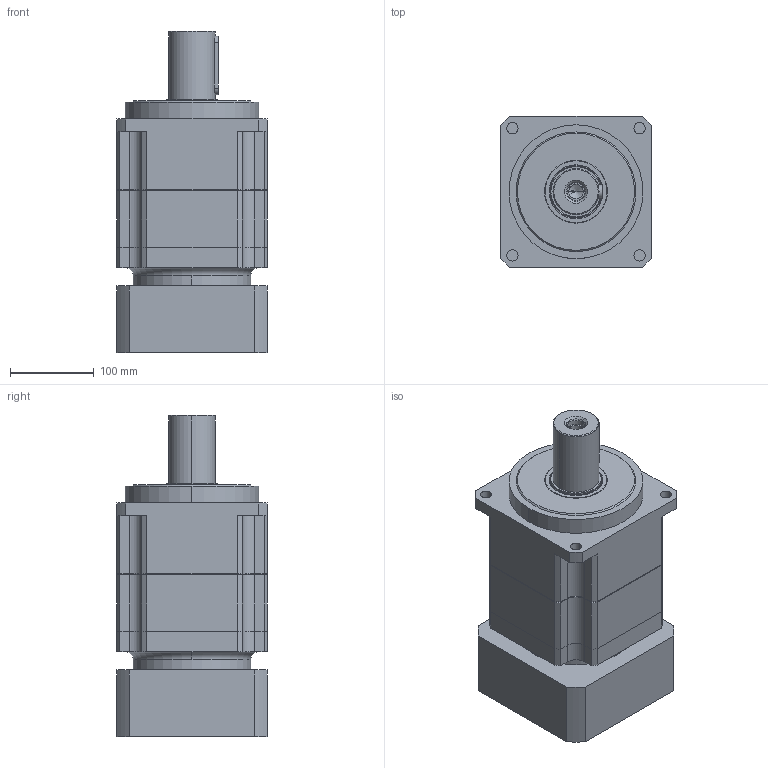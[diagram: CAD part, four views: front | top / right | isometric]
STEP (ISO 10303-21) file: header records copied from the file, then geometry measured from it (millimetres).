
FILE_DESCRIPTION (( 'STEP AP203' ), '1' );
FILE_NAME ('PAG180-L2-42-114.3-200.STEP', '2022-07-18T09:15:58', ( 'Windows User' ), ( 'P R C' ), 'SwSTEP 2.0', 'SolidWorks 2016', '' );
FILE_SCHEMA (( 'CONFIG_CONTROL_DESIGN' ));
Length unit declared in the file: millimetre
Products named in the file (8): 内六角圆柱头螺钉M10×35; PAG180-L2-42-114.3-200; PAG180齿圈转架; PAG180二级齿圈; PAG180薊粣ん-42; PAG180 一级连接板 180匡 114.3x10 200xM12 80L 目录_D4-114.3 D7-200 D8-M12 A2-180 L5-10 L6-83(45+38) R-117 标准; 邧埴瑩 16x10x70; TC60-75-9_TC-34.9-55-7
Assembly tree (7 placements, depth 2):
  PAG180-L2-42-114.3-200
    PAG180齿圈转架
    PAG180二级齿圈
    PAG180薊粣ん-42
    PAG180 一级连接板 180匡 114.3x10 200xM12 80L 目录_D4-114.3 D7-200 D8-M12 A2-180 L5-10 L6-83(45+38) R-117 标准
    邧埴瑩 16x10x70
    TC60-75-9_TC-34.9-55-7
    内六角圆柱头螺钉M10×35
Bounding box: 180 x 180 x 384.5 mm (x, y, z)
Volume: 7862432.9 mm3; surface area: 564404 mm2
Topology: 7 solids, 7 shells, 1047 faces, 2755 edges, 1798 vertices
Faces by surface type: plane 592, cylinder 209, bspline 164, cone 62, torus 20
Entity records: 40700 total; most frequent: CARTESIAN_POINT 14707, ORIENTED_EDGE 5450, DIRECTION 4690, EDGE_CURVE 2725, LINE 1836, VECTOR 1836, VERTEX_POINT 1798, AXIS2_PLACEMENT_3D 1427
